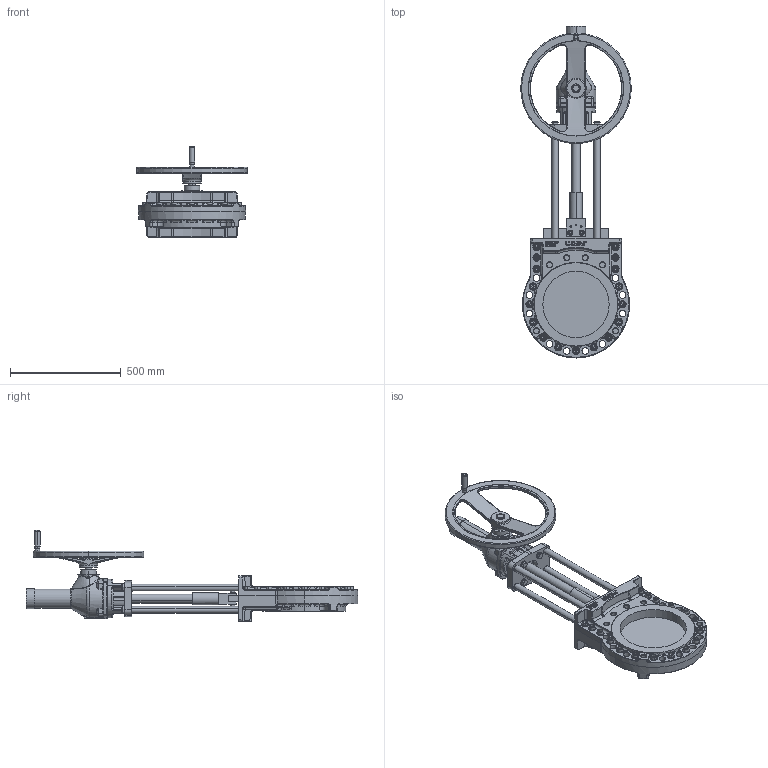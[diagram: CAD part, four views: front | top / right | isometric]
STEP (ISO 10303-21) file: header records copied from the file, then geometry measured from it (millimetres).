
FILE_DESCRIPTION (( 'STEP AP214' ), '1' );
FILE_NAME ('MHA DN 300 GK14.2.STEP', '2015-04-28T08:50:15', ( 'admin' ), ( 'Hewlett-Packard Company' ), 'SwSTEP 2.0', 'SolidWorks 2013', '' );
FILE_SCHEMA (( 'AUTOMOTIVE_DESIGN' ));
Length unit declared in the file: millimetre
Products named in the file (1): MHA DN 300 GK14.2
Bounding box: 500 x 1501 x 412.76 mm (x, y, z)
Volume: 27151205.3 mm3; surface area: 2184782.1 mm2
Topology: 60 solids, 75 shells, 3099 faces, 7377 edges, 4353 vertices
Faces by surface type: plane 980, cylinder 799, bspline 503, cone 473, torus 330, sphere 14
Entity records: 149180 total; most frequent: CARTESIAN_POINT 46259, ORIENTED_EDGE 14270, DIRECTION 14098, EDGE_CURVE 7135, AXIS2_PLACEMENT_3D 5608, VERTEX_POINT 4353, EDGE_LOOP 3386, UNCERTAINTY_MEASURE_WITH_UNIT 3159
